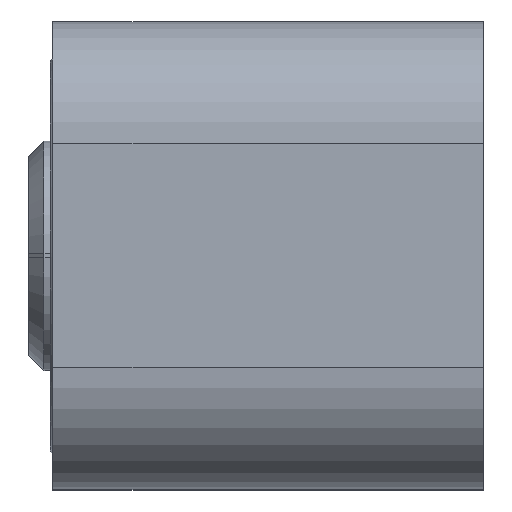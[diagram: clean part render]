
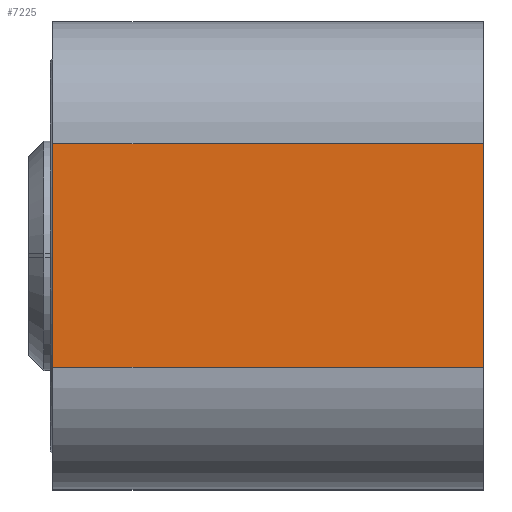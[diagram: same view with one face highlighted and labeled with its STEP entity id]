
A CAD part, top view. The second image highlights one B-rep face of the part: STEP entity #7225.
In plain terms, the highlighted planar face has unit normal (0, 0, 1).
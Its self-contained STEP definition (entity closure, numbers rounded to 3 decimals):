
#874=FACE_OUTER_BOUND('',#1318,.T.);
#1318=EDGE_LOOP('',(#5491,#5492,#5493,#5494));
#1786=LINE('',#12312,#2458);
#1853=LINE('',#12794,#2525);
#1856=LINE('',#12800,#2528);
#1857=LINE('',#12802,#2529);
#2458=VECTOR('',#8742,10.);
#2525=VECTOR('',#8943,10.);
#2528=VECTOR('',#8952,10.);
#2529=VECTOR('',#8955,10.);
#3183=VERTEX_POINT('',#12309);
#3184=VERTEX_POINT('',#12311);
#3236=VERTEX_POINT('',#12791);
#3237=VERTEX_POINT('',#12793);
#3948=EDGE_CURVE('',#3184,#3183,#1786,.T.);
#4044=EDGE_CURVE('',#3236,#3237,#1853,.T.);
#4048=EDGE_CURVE('',#3183,#3237,#1856,.T.);
#4049=EDGE_CURVE('',#3184,#3236,#1857,.T.);
#5491=ORIENTED_EDGE('',*,*,#3948,.T.);
#5492=ORIENTED_EDGE('',*,*,#4048,.T.);
#5493=ORIENTED_EDGE('',*,*,#4044,.F.);
#5494=ORIENTED_EDGE('',*,*,#4049,.F.);
#6930=PLANE('',#7789);
#7225=ADVANCED_FACE('',(#874),#6930,.T.);
#7789=AXIS2_PLACEMENT_3D('',#12801,#8953,#8954);
#8742=DIRECTION('',(0.,-1.,0.));
#8943=DIRECTION('',(0.,-1.,0.));
#8952=DIRECTION('',(1.,0.,0.));
#8953=DIRECTION('center_axis',(0.,0.,1.));
#8954=DIRECTION('ref_axis',(0.,-1.,0.));
#8955=DIRECTION('',(1.,0.,0.));
#12309=CARTESIAN_POINT('',(0.,30.,180.));
#12311=CARTESIAN_POINT('',(0.,85.,180.));
#12312=CARTESIAN_POINT('',(0.,85.,180.));
#12791=CARTESIAN_POINT('',(106.,85.,180.));
#12793=CARTESIAN_POINT('',(106.,30.,180.));
#12794=CARTESIAN_POINT('',(106.,71.25,180.));
#12800=CARTESIAN_POINT('',(0.,30.,180.));
#12801=CARTESIAN_POINT('Origin',(0.,85.,180.));
#12802=CARTESIAN_POINT('',(0.,85.,180.));
